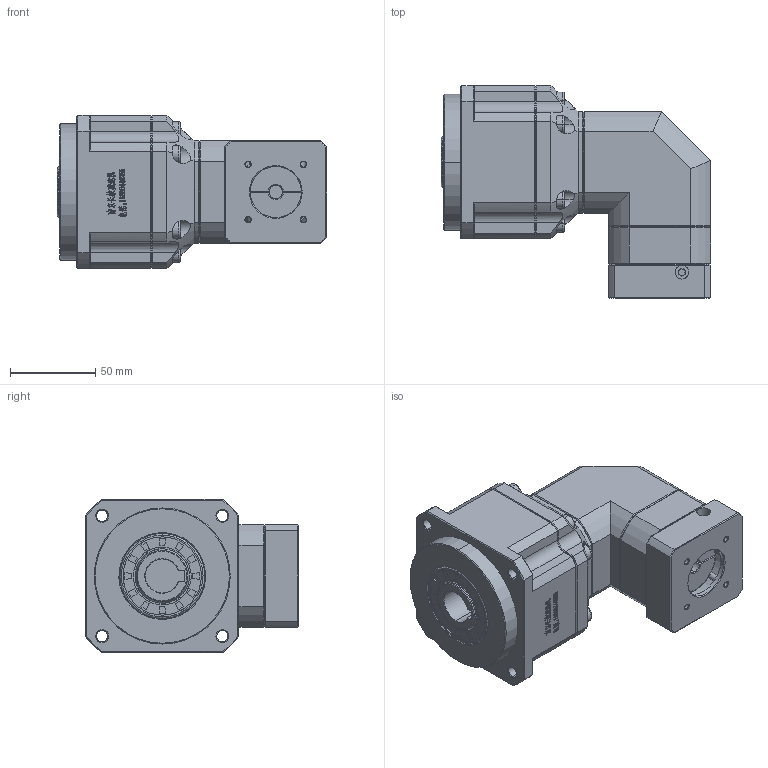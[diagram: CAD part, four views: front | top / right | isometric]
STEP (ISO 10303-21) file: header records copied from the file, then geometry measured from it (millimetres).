
FILE_DESCRIPTION (( 'STEP AP214' ), '1' );
FILE_NAME ('ZPBR090-K20-L2-P1-8-30-46-M4.step', '2024-06-07T18:41:53', ( 'Windows 蚚誧' ), ( 'Organization' ), 'SwSTEP 2.0', 'SolidWorks 2016', '' );
FILE_SCHEMA (( 'AUTOMOTIVE_DESIGN' ));
Length unit declared in the file: millimetre
Products named in the file (1): ZPBR090-K20-L2-P1-8-30-46-M4
Bounding box: 158.5 x 125 x 90 mm (x, y, z)
Surface area: 87027.7 mm2 (no closed solid volume)
Topology: 0 solids, 30 shells, 1985 faces, 5240 edges, 3337 vertices
Faces by surface type: plane 1083, bspline 366, cylinder 262, cone 249, torus 25
Entity records: 90884 total; most frequent: CARTESIAN_POINT 40958, ORIENTED_EDGE 10444, DIRECTION 7969, EDGE_CURVE 5240, VECTOR 3345, LINE 3345, VERTEX_POINT 3337, AXIS2_PLACEMENT_3D 2312
